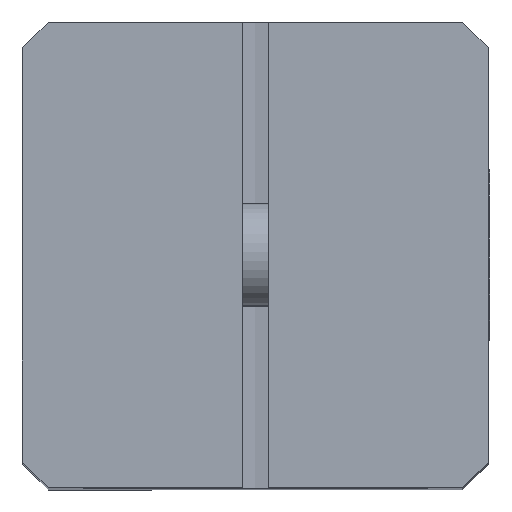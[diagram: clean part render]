
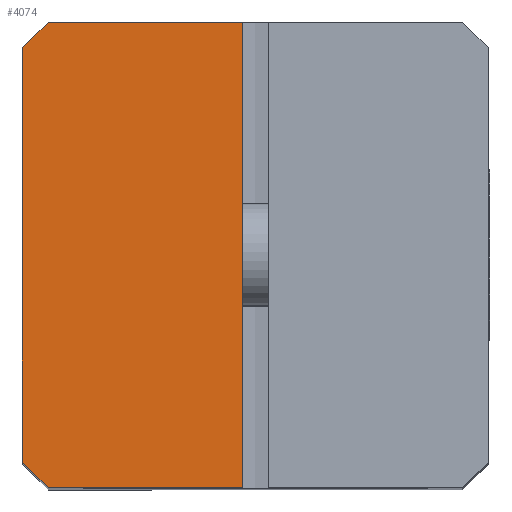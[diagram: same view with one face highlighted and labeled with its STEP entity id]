
A CAD part, top view. The second image highlights one B-rep face of the part: STEP entity #4074.
In plain terms, the highlighted planar face has unit normal (0, 0, 1).
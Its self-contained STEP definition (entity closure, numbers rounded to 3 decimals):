
#166 = DIRECTION ( 'NONE',  ( 1., 0., 0. ) ) ;
#190 = LINE ( 'NONE', #1248, #5062 ) ;
#802 = VERTEX_POINT ( 'NONE', #7335 ) ;
#888 = EDGE_CURVE ( 'NONE', #4534, #802, #5579, .T. ) ;
#967 = CARTESIAN_POINT ( 'NONE',  ( -0.5, 9., 46. ) ) ;
#1054 = ORIENTED_EDGE ( 'NONE', *, *, #4775, .T. ) ;
#1248 = CARTESIAN_POINT ( 'NONE',  ( 9., 9., 46. ) ) ;
#1275 = CARTESIAN_POINT ( 'NONE',  ( -8., 9., 46. ) ) ;
#1296 = VECTOR ( 'NONE', #3488, 1000. ) ;
#1670 = FACE_OUTER_BOUND ( 'NONE', #3419, .T. ) ;
#1899 = DIRECTION ( 'NONE',  ( 0., 0., 1. ) ) ;
#1906 = VECTOR ( 'NONE', #2463, 1000. ) ;
#2097 = VERTEX_POINT ( 'NONE', #967 ) ;
#2115 = VECTOR ( 'NONE', #2251, 1000. ) ;
#2251 = DIRECTION ( 'NONE',  ( -0.707, -0.707, 0. ) ) ;
#2360 = EDGE_CURVE ( 'NONE', #802, #4085, #5699, .T. ) ;
#2432 = DIRECTION ( 'NONE',  ( -1., 0., 0. ) ) ;
#2463 = DIRECTION ( 'NONE',  ( 1., 0., 0. ) ) ;
#2535 = ORIENTED_EDGE ( 'NONE', *, *, #2360, .T. ) ;
#2717 = VERTEX_POINT ( 'NONE', #1275 ) ;
#3007 = CARTESIAN_POINT ( 'NONE',  ( 9., -9., 46. ) ) ;
#3052 = CARTESIAN_POINT ( 'NONE',  ( 0., 0., 46. ) ) ;
#3319 = CARTESIAN_POINT ( 'NONE',  ( -9., -8., 46. ) ) ;
#3381 = CARTESIAN_POINT ( 'NONE',  ( -9., 8., 46. ) ) ;
#3389 = ORIENTED_EDGE ( 'NONE', *, *, #888, .T. ) ;
#3415 = EDGE_CURVE ( 'NONE', #2097, #4085, #4800, .T. ) ;
#3419 = EDGE_LOOP ( 'NONE', ( #5604, #1054, #6042, #3389, #2535, #6190 ) ) ;
#3460 = CARTESIAN_POINT ( 'NONE',  ( -9., -9., 46. ) ) ;
#3488 = DIRECTION ( 'NONE',  ( 0., -1., 0. ) ) ;
#4071 = DIRECTION ( 'NONE',  ( 0., -1., 0. ) ) ;
#4074 = ADVANCED_FACE ( 'NONE', ( #1670 ), #7239, .T. ) ;
#4085 = VERTEX_POINT ( 'NONE', #6603 ) ;
#4110 = AXIS2_PLACEMENT_3D ( 'NONE', #3052, #1899, #166 ) ;
#4534 = VERTEX_POINT ( 'NONE', #3319 ) ;
#4775 = EDGE_CURVE ( 'NONE', #2717, #6346, #6276, .T. ) ;
#4800 = LINE ( 'NONE', #6277, #1296 ) ;
#4924 = EDGE_CURVE ( 'NONE', #2097, #2717, #190, .T. ) ;
#5062 = VECTOR ( 'NONE', #2432, 1000. ) ;
#5254 = VECTOR ( 'NONE', #4071, 1000. ) ;
#5420 = CARTESIAN_POINT ( 'NONE',  ( -8.5, -8.5, 46. ) ) ;
#5489 = VECTOR ( 'NONE', #6621, 1000. ) ;
#5579 = LINE ( 'NONE', #5420, #5489 ) ;
#5604 = ORIENTED_EDGE ( 'NONE', *, *, #4924, .T. ) ;
#5699 = LINE ( 'NONE', #3007, #1906 ) ;
#5796 = CARTESIAN_POINT ( 'NONE',  ( -8.5, 8.5, 46. ) ) ;
#6042 = ORIENTED_EDGE ( 'NONE', *, *, #6469, .T. ) ;
#6190 = ORIENTED_EDGE ( 'NONE', *, *, #3415, .F. ) ;
#6276 = LINE ( 'NONE', #5796, #2115 ) ;
#6277 = CARTESIAN_POINT ( 'NONE',  ( -0.5, -9., 46. ) ) ;
#6346 = VERTEX_POINT ( 'NONE', #3381 ) ;
#6469 = EDGE_CURVE ( 'NONE', #6346, #4534, #7136, .T. ) ;
#6603 = CARTESIAN_POINT ( 'NONE',  ( -0.5, -9., 46. ) ) ;
#6621 = DIRECTION ( 'NONE',  ( 0.707, -0.707, 0. ) ) ;
#7136 = LINE ( 'NONE', #3460, #5254 ) ;
#7239 = PLANE ( 'NONE',  #4110 ) ;
#7335 = CARTESIAN_POINT ( 'NONE',  ( -8., -9., 46. ) ) ;
